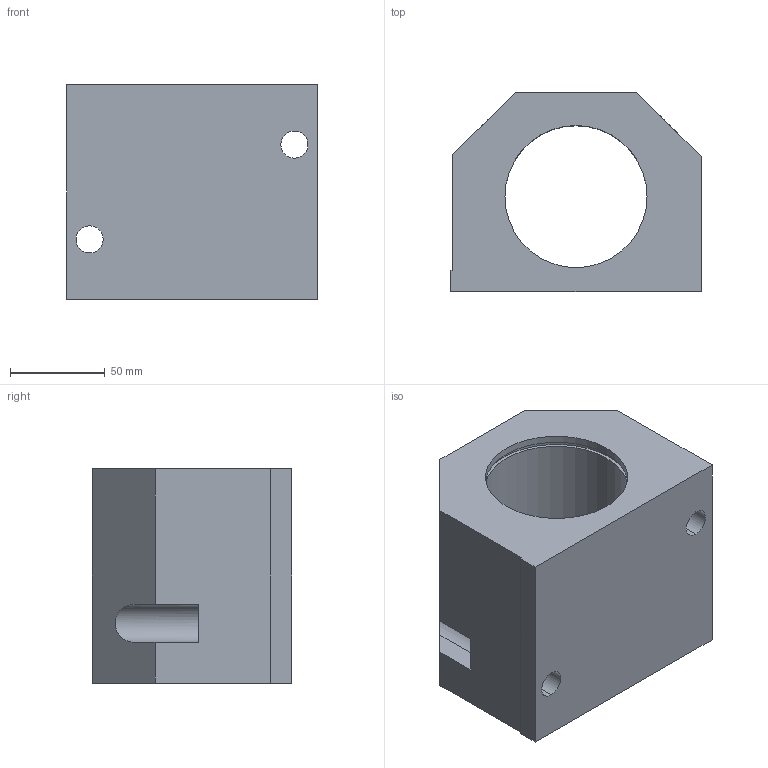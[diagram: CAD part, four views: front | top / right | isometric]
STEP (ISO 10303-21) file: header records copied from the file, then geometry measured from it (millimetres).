
FILE_DESCRIPTION (( 'STEP AP214' ), '1' );
FILE_NAME ('KG35-50.step', '2020-03-04T13:19:02', ( '' ), ( '' ), 'SwSTEP 2.0', 'SolidWorks 2019', '' );
FILE_SCHEMA (( 'AUTOMOTIVE_DESIGN' ));
Length unit declared in the file: millimetre
Products named in the file (1): KG35-50
Bounding box: 132 x 105 x 113 mm (x, y, z)
Volume: 885647.3 mm3; surface area: 100975.7 mm2
Topology: 1 solids, 1 shells, 42 faces, 104 edges, 68 vertices
Faces by surface type: cylinder 20, plane 20, cone 2
Entity records: 1424 total; most frequent: CARTESIAN_POINT 281, DIRECTION 222, ORIENTED_EDGE 208, EDGE_CURVE 104, AXIS2_PLACEMENT_3D 79, VERTEX_POINT 68, LINE 64, VECTOR 64
